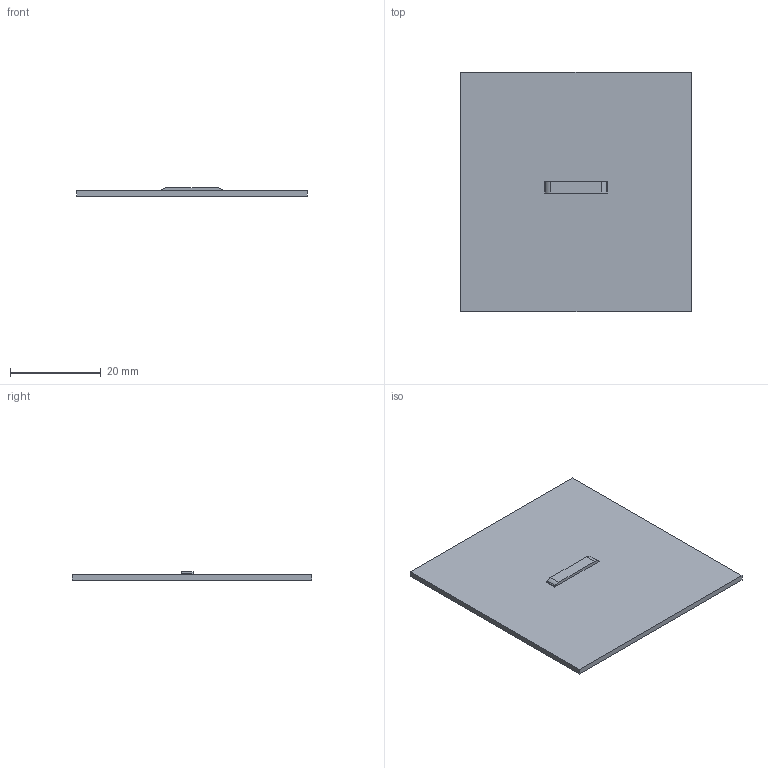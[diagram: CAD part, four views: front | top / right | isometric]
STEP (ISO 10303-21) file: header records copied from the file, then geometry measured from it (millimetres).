
FILE_DESCRIPTION((''),'1');
FILE_NAME('C:/Users/robertnolte/Desktop/WT#775111-10.stp','2012-03-27T23:04:22',(''),(''),'Spatial Interop R21 SP3','Kubotek KeyCreator 2011 V10.5.0 (24766)',' ');
FILE_SCHEMA(('CONFIG_CONTROL_DESIGN'));
Length unit declared in the file: inch
Products named in the file (1): 1
Bounding box: 50.8 x 52.88 x 1.85 mm (x, y, z)
Volume: 3273 mm3; surface area: 5692.7 mm2
Topology: 1 solids, 1 shells, 28 faces, 84 edges, 56 vertices
Faces by surface type: plane 20, cylinder 8
Entity records: 996 total; most frequent: CARTESIAN_POINT 169, ORIENTED_EDGE 168, DIRECTION 158, EDGE_CURVE 84, LINE 68, VECTOR 68, VERTEX_POINT 56, AXIS2_PLACEMENT_3D 45
